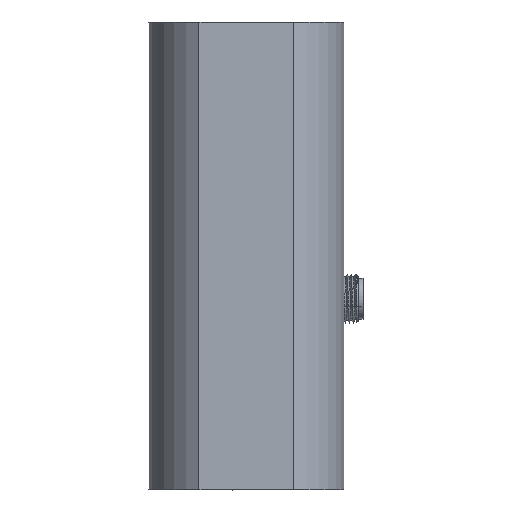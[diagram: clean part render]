
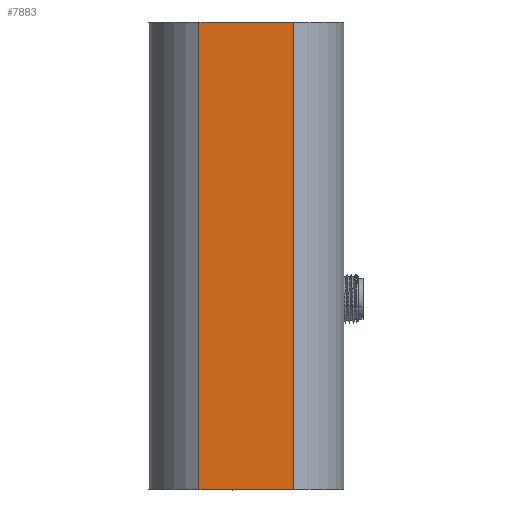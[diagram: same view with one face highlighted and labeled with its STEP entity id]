
A CAD part, front view. The second image highlights one B-rep face of the part: STEP entity #7883.
In plain terms, the highlighted planar face has unit normal (0, -1, 0).
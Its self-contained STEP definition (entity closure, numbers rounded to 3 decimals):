
#5794=FACE_OUTER_BOUND('',#9932,.T.);
#7883=ADVANCED_FACE('',(#5794),#8289,.F.);
#8289=PLANE('',#22842);
#9932=EDGE_LOOP('',(#15238,#15239,#15240,#15241));
#15238=ORIENTED_EDGE('',*,*,#19217,.T.);
#15239=ORIENTED_EDGE('',*,*,#19220,.T.);
#15240=ORIENTED_EDGE('',*,*,#19221,.T.);
#15241=ORIENTED_EDGE('',*,*,#19222,.F.);
#16855=VERTEX_POINT('',#46509);
#16856=VERTEX_POINT('',#46511);
#16858=VERTEX_POINT('',#46517);
#16859=VERTEX_POINT('',#46519);
#19217=EDGE_CURVE('',#16856,#16855,#20233,.T.);
#19220=EDGE_CURVE('',#16855,#16858,#20235,.T.);
#19221=EDGE_CURVE('',#16858,#16859,#20236,.T.);
#19222=EDGE_CURVE('',#16856,#16859,#20237,.T.);
#20233=LINE('',#46510,#21405);
#20235=LINE('',#46516,#21407);
#20236=LINE('',#46518,#21408);
#20237=LINE('',#46520,#21409);
#21405=VECTOR('',#26869,1.);
#21407=VECTOR('',#26875,1.);
#21408=VECTOR('',#26876,1.);
#21409=VECTOR('',#26877,1.);
#22842=AXIS2_PLACEMENT_3D('',#46521,#26878,#26879);
#26869=DIRECTION('',(0.,0.,-1.));
#26875=DIRECTION('',(1.,0.,0.));
#26876=DIRECTION('',(0.,0.,1.));
#26877=DIRECTION('',(1.,0.,0.));
#26878=DIRECTION('',(0.,1.,0.));
#26879=DIRECTION('',(1.,0.,0.));
#46509=CARTESIAN_POINT('',(-11.635,-26.5,96.));
#46510=CARTESIAN_POINT('',(-11.635,-26.5,235.65));
#46511=CARTESIAN_POINT('',(-11.635,-26.5,211.));
#46516=CARTESIAN_POINT('',(-0.016,-26.5,96.));
#46517=CARTESIAN_POINT('',(11.603,-26.5,96.));
#46518=CARTESIAN_POINT('',(11.603,-26.5,235.65));
#46519=CARTESIAN_POINT('',(11.603,-26.5,211.));
#46520=CARTESIAN_POINT('',(-0.016,-26.5,211.));
#46521=CARTESIAN_POINT('',(-0.016,-26.5,143.));
